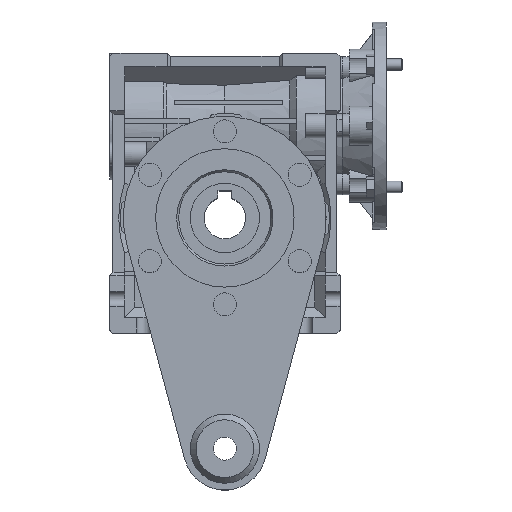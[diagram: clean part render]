
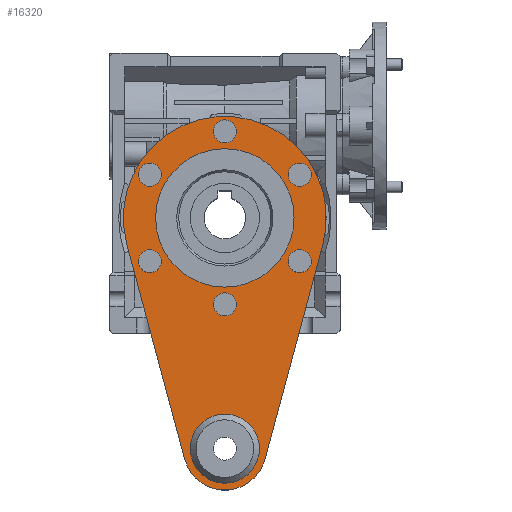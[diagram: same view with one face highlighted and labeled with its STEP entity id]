
A CAD part, top view. The second image highlights one B-rep face of the part: STEP entity #16320.
In plain terms, the highlighted planar face has unit normal (0, 0, 1).
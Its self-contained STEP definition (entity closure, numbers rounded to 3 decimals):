
#1022=CIRCLE('',#17716,44.);
#1023=CIRCLE('',#17719,30.);
#1026=CIRCLE('',#17723,18.);
#1027=CIRCLE('',#17725,5.);
#1028=CIRCLE('',#17726,5.);
#1029=CIRCLE('',#17727,5.);
#1030=CIRCLE('',#17728,5.);
#1031=CIRCLE('',#17729,5.);
#1032=CIRCLE('',#17730,5.);
#1033=CIRCLE('',#17731,15.);
#4920=ORIENTED_EDGE('',*,*,#7820,.T.);
#4921=ORIENTED_EDGE('',*,*,#7821,.T.);
#4922=ORIENTED_EDGE('',*,*,#7822,.T.);
#4923=ORIENTED_EDGE('',*,*,#7823,.T.);
#4924=ORIENTED_EDGE('',*,*,#7824,.T.);
#4925=ORIENTED_EDGE('',*,*,#7825,.T.);
#4926=ORIENTED_EDGE('',*,*,#7826,.T.);
#4927=ORIENTED_EDGE('',*,*,#7816,.F.);
#4928=ORIENTED_EDGE('',*,*,#7808,.T.);
#4929=ORIENTED_EDGE('',*,*,#7812,.T.);
#4930=ORIENTED_EDGE('',*,*,#7815,.T.);
#4931=ORIENTED_EDGE('',*,*,#7819,.T.);
#7808=EDGE_CURVE('',#9563,#9562,#11187,.T.);
#7812=EDGE_CURVE('',#9562,#9565,#1022,.T.);
#7815=EDGE_CURVE('',#9565,#9567,#11192,.T.);
#7816=EDGE_CURVE('',#9568,#9568,#1023,.T.);
#7819=EDGE_CURVE('',#9567,#9563,#1026,.T.);
#7820=EDGE_CURVE('',#9570,#9570,#1027,.F.);
#7821=EDGE_CURVE('',#9571,#9571,#1028,.F.);
#7822=EDGE_CURVE('',#9572,#9572,#1029,.F.);
#7823=EDGE_CURVE('',#9573,#9573,#1030,.F.);
#7824=EDGE_CURVE('',#9574,#9574,#1031,.F.);
#7825=EDGE_CURVE('',#9575,#9575,#1032,.F.);
#7826=EDGE_CURVE('',#9576,#9576,#1033,.T.);
#9562=VERTEX_POINT('',#26970);
#9563=VERTEX_POINT('',#26972);
#9565=VERTEX_POINT('',#26978);
#9567=VERTEX_POINT('',#26984);
#9568=VERTEX_POINT('',#26988);
#9570=VERTEX_POINT('',#26996);
#9571=VERTEX_POINT('',#26998);
#9572=VERTEX_POINT('',#27000);
#9573=VERTEX_POINT('',#27002);
#9574=VERTEX_POINT('',#27004);
#9575=VERTEX_POINT('',#27006);
#9576=VERTEX_POINT('',#27008);
#11187=LINE('',#26971,#12653);
#11192=LINE('',#26985,#12658);
#12653=VECTOR('',#21712,1000.);
#12658=VECTOR('',#21725,1000.);
#13648=EDGE_LOOP('',(#4920));
#13649=EDGE_LOOP('',(#4921));
#13650=EDGE_LOOP('',(#4922));
#13651=EDGE_LOOP('',(#4923));
#13652=EDGE_LOOP('',(#4924));
#13653=EDGE_LOOP('',(#4925));
#13654=EDGE_LOOP('',(#4926));
#13655=EDGE_LOOP('',(#4927));
#13656=EDGE_LOOP('',(#4928,#4929,#4930,#4931));
#14723=FACE_BOUND('',#13648,.T.);
#14724=FACE_BOUND('',#13649,.T.);
#14725=FACE_BOUND('',#13650,.T.);
#14726=FACE_BOUND('',#13651,.T.);
#14727=FACE_BOUND('',#13652,.T.);
#14728=FACE_BOUND('',#13653,.T.);
#14729=FACE_BOUND('',#13654,.T.);
#14730=FACE_BOUND('',#13655,.T.);
#14731=FACE_BOUND('',#13656,.T.);
#15504=PLANE('',#17724);
#16320=ADVANCED_FACE('',(#14723,#14724,#14725,#14726,#14727,#14728,#14729,
#14730,#14731),#15504,.T.);
#17716=AXIS2_PLACEMENT_3D('',#26979,#21719,#21720);
#17719=AXIS2_PLACEMENT_3D('',#26987,#21728,#21729);
#17723=AXIS2_PLACEMENT_3D('',#26993,#21736,#21737);
#17724=AXIS2_PLACEMENT_3D('',#26994,#21738,#21739);
#17725=AXIS2_PLACEMENT_3D('',#26995,#21740,#21741);
#17726=AXIS2_PLACEMENT_3D('',#26997,#21742,#21743);
#17727=AXIS2_PLACEMENT_3D('',#26999,#21744,#21745);
#17728=AXIS2_PLACEMENT_3D('',#27001,#21746,#21747);
#17729=AXIS2_PLACEMENT_3D('',#27003,#21748,#21749);
#17730=AXIS2_PLACEMENT_3D('',#27005,#21750,#21751);
#17731=AXIS2_PLACEMENT_3D('',#27007,#21752,#21753);
#21712=DIRECTION('',(0.26,0.966,0.));
#21719=DIRECTION('',(0.,0.,1.));
#21720=DIRECTION('',(1.,0.,0.));
#21725=DIRECTION('',(0.26,-0.966,0.));
#21728=DIRECTION('',(0.,0.,1.));
#21729=DIRECTION('',(1.,0.,0.));
#21736=DIRECTION('',(0.,0.,1.));
#21737=DIRECTION('',(1.,0.,0.));
#21738=DIRECTION('',(0.,0.,1.));
#21739=DIRECTION('',(1.,0.,0.));
#21740=DIRECTION('',(0.,0.,1.));
#21741=DIRECTION('',(1.,0.,0.));
#21742=DIRECTION('',(0.,0.,1.));
#21743=DIRECTION('',(1.,0.,0.));
#21744=DIRECTION('',(0.,0.,1.));
#21745=DIRECTION('',(1.,0.,0.));
#21746=DIRECTION('',(0.,0.,1.));
#21747=DIRECTION('',(1.,0.,0.));
#21748=DIRECTION('',(0.,0.,1.));
#21749=DIRECTION('',(1.,0.,0.));
#21750=DIRECTION('',(0.,0.,1.));
#21751=DIRECTION('',(1.,0.,0.));
#21752=DIRECTION('',(0.,0.,-1.));
#21753=DIRECTION('',(-1.,0.,0.));
#26970=CARTESIAN_POINT('',(42.487,-11.44,2.));
#26971=CARTESIAN_POINT('',(17.381,-104.68,2.));
#26972=CARTESIAN_POINT('',(17.381,-104.68,2.));
#26978=CARTESIAN_POINT('',(-42.487,-11.44,2.));
#26979=CARTESIAN_POINT('',(0.,0.,2.));
#26984=CARTESIAN_POINT('',(-17.381,-104.68,2.));
#26985=CARTESIAN_POINT('',(-42.487,-11.44,2.));
#26987=CARTESIAN_POINT('',(0.,0.,2.));
#26988=CARTESIAN_POINT('',(30.,0.,2.));
#26993=CARTESIAN_POINT('',(0.,-100.,2.));
#26994=CARTESIAN_POINT('',(0.,0.,2.));
#26995=CARTESIAN_POINT('',(32.476,18.75,2.));
#26996=CARTESIAN_POINT('',(37.476,18.75,2.));
#26997=CARTESIAN_POINT('',(32.476,-18.75,2.));
#26998=CARTESIAN_POINT('',(37.476,-18.75,2.));
#26999=CARTESIAN_POINT('',(0.,-37.5,2.));
#27000=CARTESIAN_POINT('',(5.,-37.5,2.));
#27001=CARTESIAN_POINT('',(-32.476,-18.75,2.));
#27002=CARTESIAN_POINT('',(-27.476,-18.75,2.));
#27003=CARTESIAN_POINT('',(-32.476,18.75,2.));
#27004=CARTESIAN_POINT('',(-27.476,18.75,2.));
#27005=CARTESIAN_POINT('',(0.,37.5,2.));
#27006=CARTESIAN_POINT('',(5.,37.5,2.));
#27007=CARTESIAN_POINT('',(0.,-100.,2.));
#27008=CARTESIAN_POINT('',(-15.,-100.,2.));
